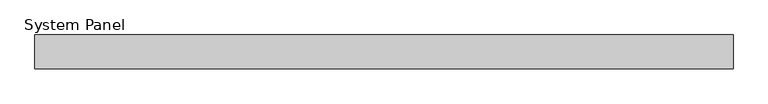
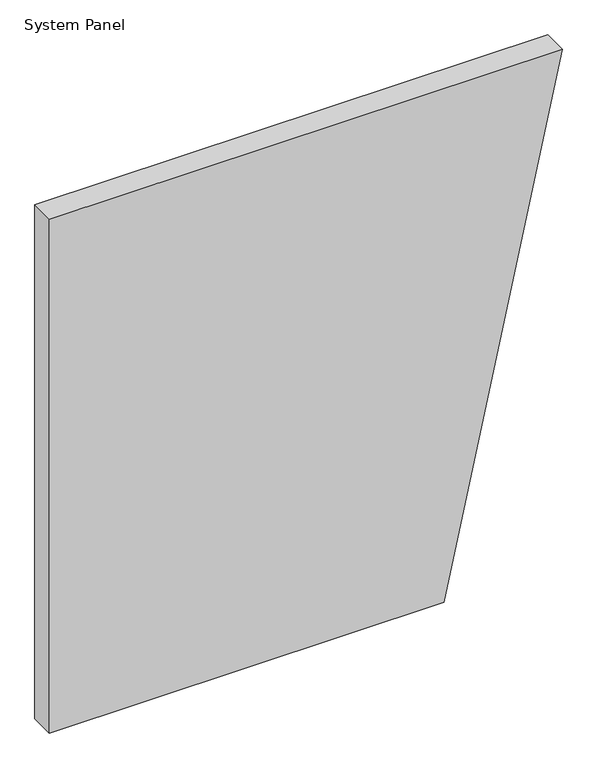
"""IFC4 building model written with IfcOpenShell, lengths in millimetres: plate geometry, System Panel : Inspire 50mm Horizontal - Plain RHEA-PIR."""

import ifcopenshell
import ifcopenshell.guid

model = None  # the IFC model being written
_history = None  # IfcOwnerHistory: only IFC2X3 demands one
_inside = {}  # id of a spatial element -> (the spatial element, [elements in it])
_under = {}  # id of a project, library or spatial element -> (it, [spatial elements below it])
_declared = {}  # id of a project -> (the project, [libraries it declares])
_typed = {}  # id of a type object -> (the type object, [elements of that type])
_made_of = {}  # id of a material, layer set ... -> (it, [elements and type objects made of it])


def new_model(schema):
    """Start an empty IFC model of exactly this schema.

    Asked for "IFC4X3", IfcOpenShell would pick the latest addendum, in which some entities
    have other attributes; the version numbers below select the first issue.
    IFC2X3 requires an IfcOwnerHistory on every rooted entity: one is made here for all.
    """
    global model, _history
    if schema == "IFC4X3":
        model = ifcopenshell.file(schema_version=(4, 3, 0, 0))
    else:
        model = ifcopenshell.file(schema=schema)
    _inside.clear()
    _under.clear()
    _declared.clear()
    _typed.clear()
    _made_of.clear()
    _history = None
    if model.schema == "IFC2X3":
        org = make("IfcOrganization", Name="unknown")
        user = make(
            "IfcPersonAndOrganization",
            ThePerson=make("IfcPerson", FamilyName="unknown"),
            TheOrganization=org,
        )
        app = make(
            "IfcApplication",
            ApplicationDeveloper=org,
            Version="unknown",
            ApplicationFullName="unknown",
            ApplicationIdentifier="unknown",
        )
        _history = make(
            "IfcOwnerHistory",
            OwningUser=user,
            OwningApplication=app,
            ChangeAction="ADDED",
            CreationDate=0,
        )
    return model


def make(cls, **values):
    """One entity of the class cls with the attributes given. An attribute that is None is left unset."""
    return model.create_entity(
        cls, **{name: value for name, value in values.items() if value is not None}
    )


def rooted(cls, **values):
    """An entity with a GlobalId (a new one), such as an element, a storey or a relation."""
    return make(cls, GlobalId=ifcopenshell.guid.new(), OwnerHistory=_history, **values)


def si_unit(unit_type, name, prefix=None):
    """IfcSIUnit, for example si_unit("LENGTHUNIT", "METRE", prefix="MILLI")."""
    return make("IfcSIUnit", UnitType=unit_type, Prefix=prefix, Name=name)


def assignment(units):
    """IfcUnitAssignment: the units of a project."""
    return None if units is None else make("IfcUnitAssignment", Units=units)


def point(xyz):
    """IfcCartesianPoint."""
    return None if xyz is None else make("IfcCartesianPoint", Coordinates=xyz)


def direction(xyz):
    """IfcDirection."""
    return None if xyz is None else make("IfcDirection", DirectionRatios=xyz)


def frame(location, z_axis=None, x_axis=None):
    """IfcAxis2Placement3D, a coordinate frame: its origin and axes. An axis left out is left unset."""
    return make(
        "IfcAxis2Placement3D",
        Location=point(location),
        Axis=direction(z_axis),
        RefDirection=direction(x_axis),
    )


def origin():
    """The frame at (0, 0, 0) with its axes left unset."""
    return frame((0.0, 0.0, 0.0))


def place(relative_to, where):
    """IfcLocalPlacement: puts the frame where relative to a parent placement (None: the world)."""
    return make(
        "IfcLocalPlacement", PlacementRelTo=relative_to, RelativePlacement=where
    )


def context(
    kind, dimensions, precision=None, world=None, true_north=None, identifier=None
):
    """IfcGeometricRepresentationContext, for example the 3D "Model" context."""
    return make(
        "IfcGeometricRepresentationContext",
        ContextIdentifier=identifier,
        ContextType=kind,
        CoordinateSpaceDimension=dimensions,
        Precision=precision,
        WorldCoordinateSystem=world,
        TrueNorth=true_north,
    )


def project(units=None, contexts=None):
    """IfcProject with its units and contexts."""
    return rooted(
        "IfcProject",
        Name="project",
        RepresentationContexts=contexts,
        UnitsInContext=assignment(units),
    )


def spatial(cls, under=None, at=None, **own):
    """A site, building, storey or space (cls), placed at a placement, below another one or the project."""
    s = rooted(cls, ObjectPlacement=at, **own)
    if under is not None:
        _under.setdefault(under.id(), (under, []))[1].append(s)
    return s


def polyline(points):
    """IfcPolyline through the points."""
    return make("IfcPolyline", Points=[point(p) for p in points])


def outline(outer, holes=None, kind="AREA"):
    """IfcArbitraryClosedProfileDef: a profile drawn as a closed curve; with holes, ...WithVoids."""
    if holes is None:
        return make("IfcArbitraryClosedProfileDef", ProfileType=kind, OuterCurve=outer)
    return make(
        "IfcArbitraryProfileDefWithVoids",
        ProfileType=kind,
        OuterCurve=outer,
        InnerCurves=holes,
    )


def extrude(swept, where, along, depth):
    """IfcExtrudedAreaSolid: the profile swept, set in the frame where, extruded along a direction by depth."""
    return make(
        "IfcExtrudedAreaSolid",
        SweptArea=swept,
        Position=where,
        ExtrudedDirection=direction(along),
        Depth=depth,
    )


def shape(context_of_items, identifier, shape_type, items):
    """IfcShapeRepresentation: the items that make up one representation, for example the "Body"."""
    return make(
        "IfcShapeRepresentation",
        ContextOfItems=context_of_items,
        RepresentationIdentifier=identifier,
        RepresentationType=shape_type,
        Items=items,
    )


def source(mapping_origin, context_of_items, identifier, shape_type, items):
    """IfcRepresentationMap: a shape defined once, which mapped items show again and again."""
    return make(
        "IfcRepresentationMap",
        MappingOrigin=mapping_origin,
        MappedRepresentation=shape(context_of_items, identifier, shape_type, items),
    )


def transform(
    local_origin,
    x_axis=None,
    y_axis=None,
    z_axis=None,
    scale=None,
    scale2=None,
    scale3=None,
    uniform=True,
):
    """IfcCartesianTransformationOperator3D, or its non-uniform kind. x_axis, y_axis, z_axis: its Axis1, 2, 3."""
    if uniform:
        return make(
            "IfcCartesianTransformationOperator3D",
            Axis1=direction(x_axis),
            Axis2=direction(y_axis),
            LocalOrigin=point(local_origin),
            Scale=scale,
            Axis3=direction(z_axis),
        )
    return make(
        "IfcCartesianTransformationOperator3DnonUniform",
        Axis1=direction(x_axis),
        Axis2=direction(y_axis),
        LocalOrigin=point(local_origin),
        Scale=scale,
        Axis3=direction(z_axis),
        Scale2=scale2,
        Scale3=scale3,
    )


def mapped(mapping_source, mapping_target):
    """IfcMappedItem: shows the shape of a source again, moved by a transform."""
    return make(
        "IfcMappedItem", MappingSource=mapping_source, MappingTarget=mapping_target
    )


def made_of(thing, what):
    """Note that an element or type object is made of a material, layer set ...; save() writes the relation."""
    if what is not None:
        _made_of.setdefault(what.id(), (what, []))[1].append(thing)
    return thing


def element(
    cls,
    number,
    at=None,
    inside=None,
    cuts=None,
    type_object=None,
    material=None,
    context=None,
    identifier="Body",
    shape_type=None,
    held_by="IfcProductDefinitionShape",
    body=None,
    shapes=None,
    **own,
):
    """One element of the class cls, such as IfcWall. Its Tag is "e" and its number.

    at: its placement. inside: the storey or other place that contains it. cuts: it is an
    opening in that element (IfcRelVoidsElement). A single representation is given by context,
    identifier, shape_type and body (its items); several are given by shapes. held_by: the class
    of the entity that holds the representations. save() writes the other relations.
    """
    e = rooted(cls, Tag="e%d" % number, ObjectPlacement=at, **own)
    if body is not None:
        shapes = [shape(context, identifier, shape_type, body)]
    if shapes is not None:
        e.Representation = make(held_by, Representations=shapes)
    if inside is not None:
        _inside.setdefault(inside.id(), (inside, []))[1].append(e)
    if cuts is not None:
        rooted(
            "IfcRelVoidsElement", RelatingBuildingElement=cuts, RelatedOpeningElement=e
        )
    if type_object is not None:
        _typed.setdefault(type_object.id(), (type_object, []))[1].append(e)
    return made_of(e, material)


def aggregate(whole, parts):
    """IfcRelAggregates: a whole, such as a stair, and the parts it consists of."""
    return rooted("IfcRelAggregates", RelatingObject=whole, RelatedObjects=parts)


def save(model, path):
    """Write the relations noted so far, then the file.

    IfcRelAggregates (storeys below a building ...), IfcRelContainedInSpatialStructure (elements
    in a storey), IfcRelDefinesByType, IfcRelAssociatesMaterial and IfcRelDeclares: one each for
    every whole, place, type object, material and project.
    """
    for whole, parts in _under.values():
        aggregate(whole, parts)
    for where, things in _inside.values():
        rooted(
            "IfcRelContainedInSpatialStructure",
            RelatedElements=things,
            RelatingStructure=where,
        )
    for kind, things in _typed.values():
        rooted("IfcRelDefinesByType", RelatedObjects=things, RelatingType=kind)
    for what, things in _made_of.values():
        rooted("IfcRelAssociatesMaterial", RelatedObjects=things, RelatingMaterial=what)
    for by, libraries in _declared.values():
        rooted("IfcRelDeclares", RelatingContext=by, RelatedDefinitions=libraries)
    model.write(path)


def system_panel_6d6b4bea(model_context):
    return source(origin(), model_context, "Body", "SweptSolid", [
        extrude(outline(polyline([(0.0, -519.5661783), (0.0, 280.4338217), (1100.0, 519.5661783), (1100.0, -519.5661783), (0.0, -519.5661783)])), frame((0.0, -50.0, 0.0), z_axis=(0.0, 1.0, 0.0), x_axis=(0.0, 0.0, 1.0)), (0.0, 0.0, 1.0), 50.0),
    ])


if __name__ == "__main__":
    model = new_model("IFC4")
    model_context = context("Model", 3, world=origin())
    ifc_project = project(units=[si_unit("LENGTHUNIT", "METRE", prefix="MILLI")], contexts=[model_context])
    site = spatial("IfcSite", under=ifc_project)
    building = spatial("IfcBuilding", under=site)
    placement = place(None, origin())
    system_panel_shape = system_panel_6d6b4bea(model_context)
    element("IfcPlate", 1, ObjectType="System Panel : Inspire 50mm Horizontal - Plain RHEA-PIR", at=placement, inside=building, context=model_context, shape_type="MappedRepresentation", body=[
        mapped(system_panel_shape, transform((0.0, 0.0, 0.0), x_axis=(1.0, 0.0, 0.0), y_axis=(0.0, 1.0, 0.0), z_axis=(0.0, 0.0, 1.0))),
    ])
    save(model, "model.ifc")
